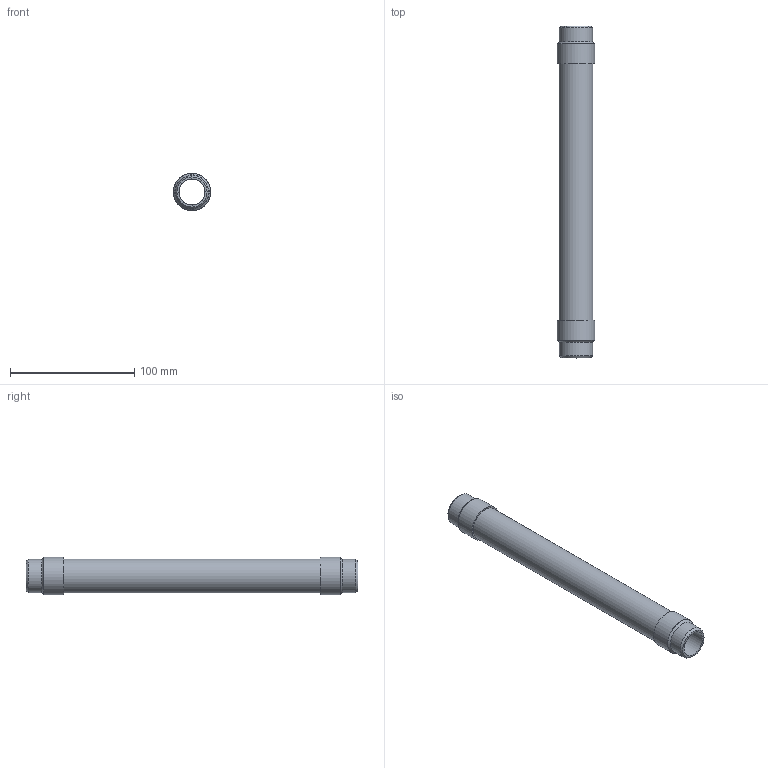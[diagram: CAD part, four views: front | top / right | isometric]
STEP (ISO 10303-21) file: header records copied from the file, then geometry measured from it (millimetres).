
FILE_DESCRIPTION(/* description */ (''),/* implementation_level */ '2;1');
FILE_NAME(/* name */ 'C:\001_Work\Designs\CSAWN\CSAWN-0.75x10.5.stp',/* time_stamp */ '2016-06-04T16:18:39-04:00',/* author */ ('rramoutar'),/* organization */ ('Mason Industries Inc.'),/* preprocessor_version */ 'ST-DEVELOPER v15.6',/* originating_system */ 'Autodesk Inventor 2015',/* authorisation */ '');
FILE_SCHEMA (('CONFIG_CONTROL_DESIGN'));
Length unit declared in the file: inch
Products named in the file (1): CSAWN-0.75x10.5
Bounding box: 29.92 x 266.7 x 29.92 mm (x, y, z)
Volume: 15777.1 mm3; surface area: 51988.7 mm2
Topology: 5 solids, 5 shells, 24 faces, 40 edges, 26 vertices
Faces by surface type: cylinder 10, plane 10, cone 4
Full cylindrical faces by diameter (mm): 20.93 x2, 26.67 x3, 27.28 x1, 27.534 x2, 29.921 x2
Entity records: 564 total; most frequent: DIRECTION 98, CARTESIAN_POINT 73, AXIS2_PLACEMENT_3D 49, EDGE_LOOP 48, ORIENTED_EDGE 48, STYLED_ITEM 29, FACE_BOUND 24, FACE_OUTER_BOUND 24
